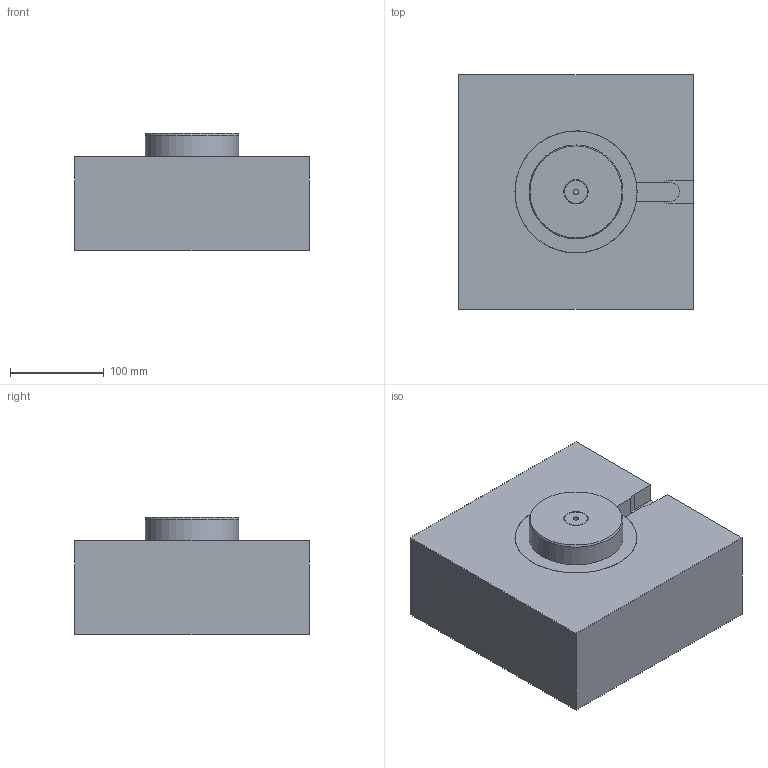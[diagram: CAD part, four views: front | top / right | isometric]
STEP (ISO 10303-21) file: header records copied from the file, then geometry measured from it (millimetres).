
FILE_DESCRIPTION( ( 'STEP AP214' ), '1' );
FILE_NAME( 'S:/PROIECTE_YUDO_2010/PROIECTE YUDO 2010 3D/BLS/YUEU10-BLS25CF070/YUEU10-BLS25CF070.step', '2010-02-09T09:45:57', ( ' ' ), ( ' ' ), 'XStep 1.0', ' ', ' ' );
FILE_SCHEMA( ( 'automotive_design' ) );
Length unit declared in the file: millimetre
Products named in the file (5): 1; 2; 3; 4; 5
Bounding box: 250 x 250 x 125 mm (x, y, z)
Volume: 6334808.7 mm3; surface area: 318358.6 mm2
Topology: 5 solids, 5 shells, 153 faces, 337 edges, 212 vertices
Faces by surface type: plane 68, cylinder 49, cone 25, torus 9, sphere 1, bspline 1
Full cylindrical faces by diameter (mm): 12 x2, 20 x1, 22.9 x1, 24.991 x1, 25 x4, 25.1 x1, 28 x2, 29 x1, 32 x1, 33.5 x1, 33.547 x1, 34 x1, 37 x2, 38 x3, 40 x1, 44.998 x2, 45 x1, 61.8 x1, 62.8 x2, 100 x1, 130 x1
Entity records: 5183 total; most frequent: CARTESIAN_POINT 743, DIRECTION 684, ORIENTED_EDGE 528, AXIS2_PLACEMENT_3D 287, EDGE_CURVE 264, EDGE_LOOP 244, VERTEX_POINT 206, FACE_OUTER_BOUND 195
